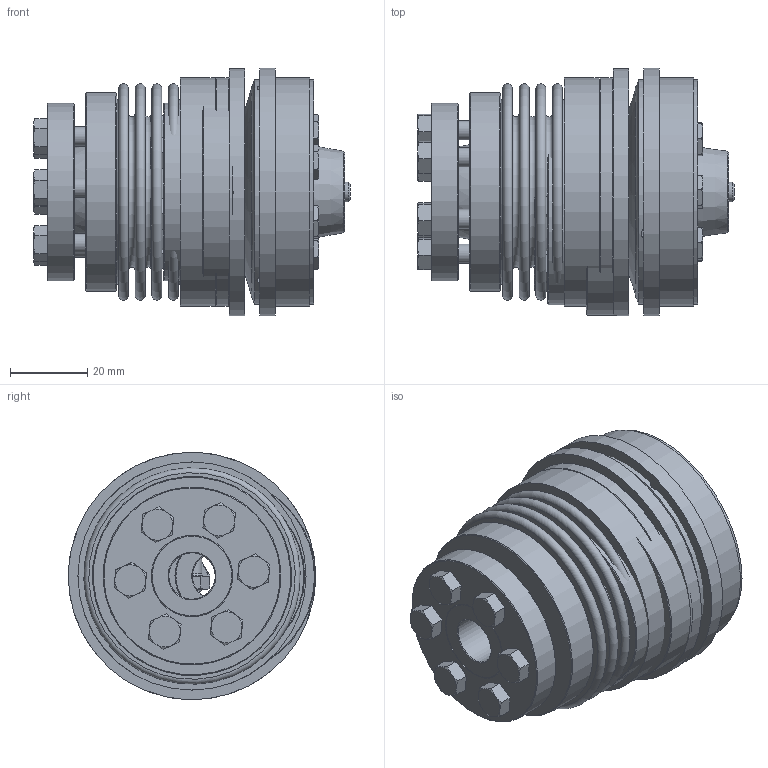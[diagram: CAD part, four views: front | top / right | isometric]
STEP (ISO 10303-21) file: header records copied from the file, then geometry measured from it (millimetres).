
FILE_DESCRIPTION( ( 'Unknown' ), '1' );
FILE_NAME( 'C:/Dokumente und Einstellungen/SKarpstein/Desktop/Korrigierte 3D Modelle/KBK-B-AI/KBK-BAI-30-75.stp', 'Unknown', ( 'Unknown' ), ( 'Unknown' ), 'XStep 1.0', 'Unknown', ' ' );
FILE_SCHEMA( ( 'automotive_design' ) );
Length unit declared in the file: millimetre
Products named in the file (12): Assem1; Assem2; Hex Screw GradeC_DIN_ISO 4018 - M5 x 16-NN; BA30_Standard; DR30_Standard; Stellring 30; Druckring 30; KBK L-I-30 Grundkörper; Konusbuchse KBK L-I-30; din_en_24017_m5x16; Flansch BK30; BK30_Standard_1
Bounding box: 81.95 x 64 x 64 mm (x, y, z)
Volume: 226543 mm3; surface area: 158470.2 mm2
Topology: 38 solids, 38 shells, 727 faces, 1529 edges, 967 vertices
Faces by surface type: plane 321, cone 212, cylinder 153, torus 41
Full cylindrical faces by diameter (mm): 3.242 x6, 4.134 x18, 4.2 x18, 5 x20, 5.5 x30, 6.88 x7, 12 x7, 23.9 x2, 24.4 x2, 24.526 x3, 25 x4, 34 x2, 37 x2, 38 x4, 39.5 x2, 40 x2, 46 x3, 46.5 x4, 47.3 x4, 51.5 x3, 52 x2, 58 x2, 59 x4, 64 x2
Entity records: 5597 total; most frequent: CARTESIAN_POINT 1190, DIRECTION 910, ORIENTED_EDGE 590, AXIS2_PLACEMENT_3D 431, EDGE_LOOP 396, EDGE_CURVE 295, FACE_OUTER_BOUND 276, VERTEX_POINT 247
